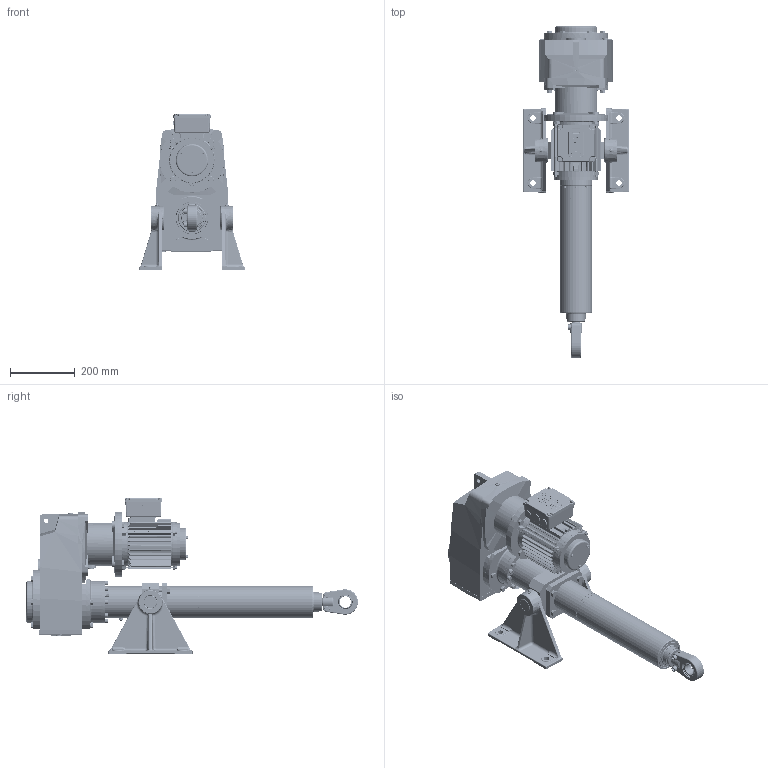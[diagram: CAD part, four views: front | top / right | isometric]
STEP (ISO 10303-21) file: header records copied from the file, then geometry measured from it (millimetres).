
FILE_DESCRIPTION(/* description */ ('Unknown'),/* implementation_level */ '2;1');
FILE_NAME(/* name */ 'T6P7-0400-161-072-4',/* time_stamp */ '2025-07-21T09:49:30+02:00',/* author */ ('Unknown'),/* organization */ ('Unknown'),/* preprocessor_version */ 'ST-DEVELOPER v19.4',/* originating_system */ 'Solid Edge',/* authorisation */ 'Unknown');
FILE_SCHEMA (('AUTOMOTIVE_DESIGN {1 0 10303 214 3 1 1}'));
Products named in the file (15): 161-072-4; 02.14-07-0400_6; 01.15-07-0400_6; Ex_Adapter; 02.43-07_6_Nord; Erdungsschraube_M8_90°; 151-233-1; 80K-B5_ohne; 01.74-07_6_M28x1,5; SK3282AZ-IEC90_Deckel; 10.20-04-11; Klemmenkasten; 157-587-2; 03.32-07; 03.65-07_6_Ø100
Assembly tree (14 placements, depth 2):
  161-072-4
    02.14-07-0400_6
    01.15-07-0400_6
    Ex_Adapter
    02.43-07_6_Nord
    Erdungsschraube_M8_90°
    151-233-1
    80K-B5_ohne
    01.74-07_6_M28x1,5
    SK3282AZ-IEC90_Deckel
    10.20-04-11
    Klemmenkasten
    157-587-2
    03.32-07
    03.65-07_6_Ø100
Bounding box: 325 x 1022.1 x 480.05 mm (x, y, z)
Volume: 24751518.8 mm3; surface area: 1695604.6 mm2
Topology: 25 solids, 53 shells, 8133 faces, 27066 edges, 17688 vertices
Faces by surface type: plane 6715, cylinder 847, bspline 187, torus 181, cone 164, sphere 39
Full cylindrical faces by diameter (mm): 1 x33, 2 x10, 2.5 x2, 3 x2, 4 x2, 4.917 x2, 5 x9, 5.3 x4, 5.7 x3, 5.8 x3, 6 x1, 8 x5, 8.15 x1, 8.2 x1, 8.38 x4, 8.4 x3, 8.5 x6, 8.566 x1, 9.15 x3, 9.6 x4, 9.728 x1, 10 x29, 10.5 x14, 11.6 x1, 12 x4, 12.8 x1, 13 x9, 14 x1, 15.5 x4, 16 x19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
Entity records: 341423 total; most frequent: CARTESIAN_POINT 58434, ORIENTED_EDGE 52560, DIRECTION 50382, EDGE_CURVE 26280, VERTEX_POINT 17455, AXIS2_PLACEMENT_3D 17130, LINE 16122, VECTOR 16122
